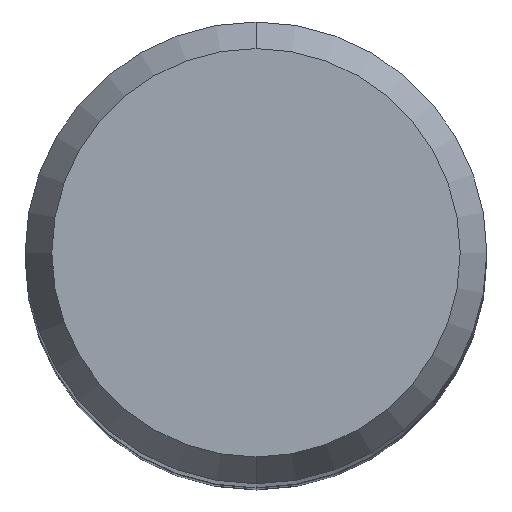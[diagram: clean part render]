
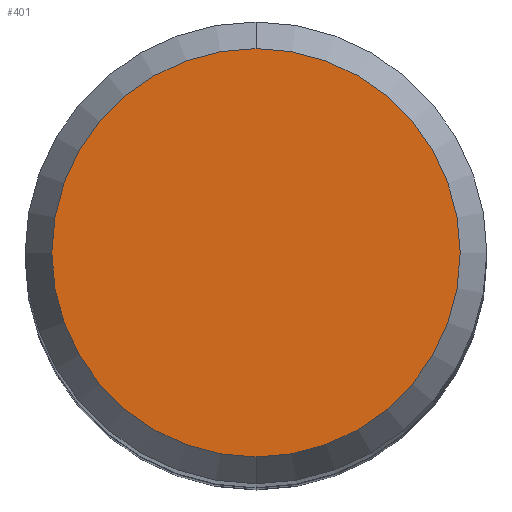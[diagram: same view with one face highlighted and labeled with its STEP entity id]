
A CAD part, top view. The second image highlights one B-rep face of the part: STEP entity #401.
In plain terms, the highlighted planar face has unit normal (0, 0, 1).
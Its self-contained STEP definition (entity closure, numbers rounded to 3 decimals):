
#245=VERTEX_POINT('',#656);
#361=VERTEX_POINT('',#786);
#379=EDGE_CURVE('',#245,#361,#806,.T.);
#401=ADVANCED_FACE('',(#832),#833,.T.);
#577=EDGE_CURVE('',#361,#245,#1025,.T.);
#656=CARTESIAN_POINT('',(0.,-3.538,0.0));
#786=CARTESIAN_POINT('',(0.0,3.538,0.0));
#806=CIRCLE('',#1396,3.538);
#832=FACE_OUTER_BOUND('',#1424,.T.);
#833=PLANE('',#1425);
#1025=CIRCLE('',#1795,3.538);
#1396=AXIS2_PLACEMENT_3D('',#2060,#2061,#2062);
#1424=EDGE_LOOP('',(#2099,#2100));
#1425=AXIS2_PLACEMENT_3D('',#2101,#2102,#2103);
#1795=AXIS2_PLACEMENT_3D('',#2319,#2320,#2321);
#2060=CARTESIAN_POINT('',(0.0,0.0,0.0));
#2061=DIRECTION('',(0.0,0.0,-1.0));
#2062=DIRECTION('',(0.0,1.0,0.0));
#2099=ORIENTED_EDGE('',*,*,#577,.F.);
#2100=ORIENTED_EDGE('',*,*,#379,.F.);
#2101=CARTESIAN_POINT('',(0.0,1.769,0.0));
#2102=DIRECTION('',(-0.0,0.0,1.0));
#2103=DIRECTION('',(0.0,-1.0,0.0));
#2319=CARTESIAN_POINT('',(0.0,0.0,0.0));
#2320=DIRECTION('',(0.0,0.0,-1.0));
#2321=DIRECTION('',(0.0,1.0,0.0));
